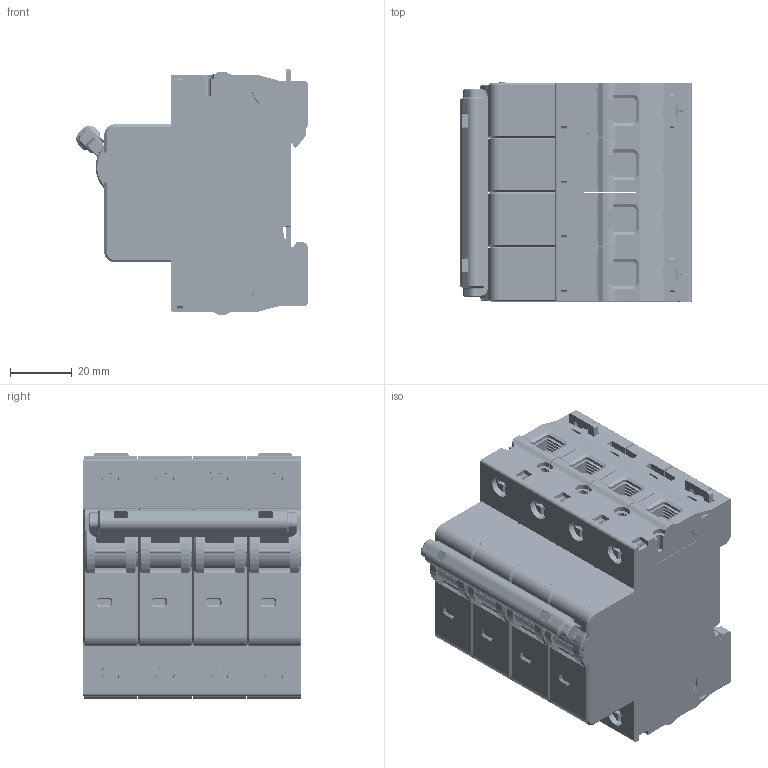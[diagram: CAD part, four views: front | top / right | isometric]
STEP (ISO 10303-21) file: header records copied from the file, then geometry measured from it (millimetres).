
FILE_DESCRIPTION((''),'2;1');
FILE_NAME('2255008400_ASM_SW0001','2019-10-15T',('gang.wang'),(''),'PRO/ENGINEER BY PARAMETRIC TECHNOLOGY CORPORATION, 2015440','PRO/ENGINEER BY PARAMETRIC TECHNOLOGY CORPORATION, 2015440','');
FILE_SCHEMA(('CONFIG_CONTROL_DESIGN'));
Products named in the file (1): 2255008400_ASM_SW0001
Bounding box: 75.08 x 71.05 x 79.9 mm (x, y, z)
Volume: 258901.8 mm3; surface area: 107457.9 mm2
Topology: 1 solids, 21 shells, 9815 faces, 27657 edges, 18269 vertices
Faces by surface type: plane 6837, cylinder 1656, extrusion 939, cone 267, torus 45, bspline 36, sphere 35
Entity records: 321842 total; most frequent: CARTESIAN_POINT 69182, ORIENTED_EDGE 55244, DIRECTION 47657, EDGE_CURVE 27622, VECTOR 22121, LINE 21182, VERTEX_POINT 18269, AXIS2_PLACEMENT_3D 12768
